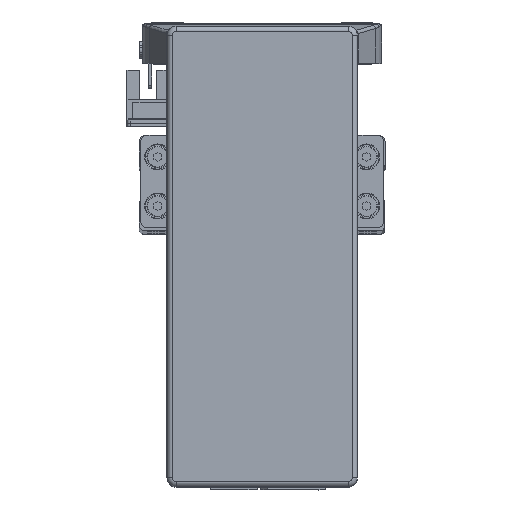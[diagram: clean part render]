
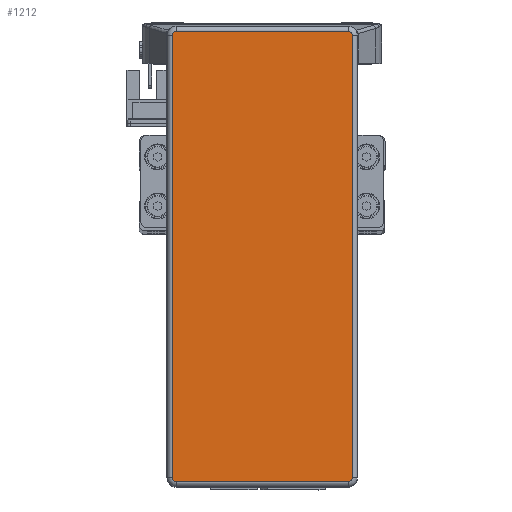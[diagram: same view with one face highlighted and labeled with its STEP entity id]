
A CAD part, top view. The second image highlights one B-rep face of the part: STEP entity #1212.
In plain terms, the highlighted planar face has unit normal (0, 0, 1) as drawn and (0, 0, -1) by its records, which use the part's own axes.
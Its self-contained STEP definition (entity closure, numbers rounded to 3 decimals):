
#1212 = ADVANCED_FACE ( 'NONE', ( #18294 ), #30005, .F. ) ;
#3678 = CARTESIAN_POINT ( 'NONE',  ( 71.995, -29.295, -32.2 ) ) ;
#3701 = CARTESIAN_POINT ( 'NONE',  ( 71.995, 29.295, -32.2 ) ) ;
#3752 = CARTESIAN_POINT ( 'NONE',  ( -73.295, 27.995, -32.2 ) ) ;
#3753 = CARTESIAN_POINT ( 'NONE',  ( -71.995, -29.295, -32.2 ) ) ;
#3761 = CARTESIAN_POINT ( 'NONE',  ( 73.295, 27.995, -32.2 ) ) ;
#3774 = CARTESIAN_POINT ( 'NONE',  ( -73.295, -27.995, -32.2 ) ) ;
#3777 = CARTESIAN_POINT ( 'NONE',  ( -71.995, 29.295, -32.2 ) ) ;
#3796 = CARTESIAN_POINT ( 'NONE',  ( 73.295, -27.995, -32.2 ) ) ;
#5838 = CIRCLE ( 'NONE', #23985, 1.3 ) ;
#5908 = CIRCLE ( 'NONE', #24061, 1.3 ) ;
#5924 = LINE ( 'NONE', #11670, #5964 ) ;
#5964 = VECTOR ( 'NONE', #11664, 1000. ) ;
#5973 = CIRCLE ( 'NONE', #24019, 1.3 ) ;
#6096 = LINE ( 'NONE', #11689, #6097 ) ;
#6097 = VECTOR ( 'NONE', #11704, 1000. ) ;
#6509 = VECTOR ( 'NONE', #11571, 1000. ) ;
#6518 = CIRCLE ( 'NONE', #24040, 1.3 ) ;
#6537 = LINE ( 'NONE', #11563, #6509 ) ;
#11563 = CARTESIAN_POINT ( 'NONE',  ( 73.295, -27.995, -32.2 ) ) ;
#11570 = CARTESIAN_POINT ( 'NONE',  ( 71.995, 27.995, -32.2 ) ) ;
#11571 = DIRECTION ( 'NONE',  ( 0., -1., 0. ) ) ;
#11579 = DIRECTION ( 'NONE',  ( 0., 0., -1. ) ) ;
#11588 = DIRECTION ( 'NONE',  ( 1., 0., 0. ) ) ;
#11664 = DIRECTION ( 'NONE',  ( 0., 1., 0. ) ) ;
#11670 = CARTESIAN_POINT ( 'NONE',  ( -73.295, -27.995, -32.2 ) ) ;
#11689 = CARTESIAN_POINT ( 'NONE',  ( 71.995, -29.295, -32.2 ) ) ;
#11693 = DIRECTION ( 'NONE',  ( 0., 0., -1. ) ) ;
#11694 = DIRECTION ( 'NONE',  ( 1., 0., 0. ) ) ;
#11695 = DIRECTION ( 'NONE',  ( 0., 0., -1. ) ) ;
#11700 = CARTESIAN_POINT ( 'NONE',  ( -71.995, 27.995, -32.2 ) ) ;
#11704 = DIRECTION ( 'NONE',  ( -1., 0., 0. ) ) ;
#11706 = CARTESIAN_POINT ( 'NONE',  ( -71.995, -27.995, -32.2 ) ) ;
#11718 = CARTESIAN_POINT ( 'NONE',  ( 71.995, -27.995, -32.2 ) ) ;
#11719 = DIRECTION ( 'NONE',  ( 1., 0., 0. ) ) ;
#11726 = DIRECTION ( 'NONE',  ( 0., 0., -1. ) ) ;
#11727 = DIRECTION ( 'NONE',  ( 1., 0., 0. ) ) ;
#11733 = DIRECTION ( 'NONE',  ( 1., 0., 0. ) ) ;
#11768 = CARTESIAN_POINT ( 'NONE',  ( 71.995, 29.295, -32.2 ) ) ;
#12267 = LINE ( 'NONE', #11768, #12269 ) ;
#12269 = VECTOR ( 'NONE', #11733, 1000. ) ;
#18294 = FACE_OUTER_BOUND ( 'NONE', #28795, .T. ) ;
#23985 = AXIS2_PLACEMENT_3D ( 'NONE', #11718, #11726, #11727 ) ;
#24019 = AXIS2_PLACEMENT_3D ( 'NONE', #11706, #11695, #11719 ) ;
#24040 = AXIS2_PLACEMENT_3D ( 'NONE', #11570, #11579, #11588 ) ;
#24061 = AXIS2_PLACEMENT_3D ( 'NONE', #11700, #11693, #11694 ) ;
#25527 = VERTEX_POINT ( 'NONE', #3678 ) ;
#25538 = VERTEX_POINT ( 'NONE', #3701 ) ;
#25539 = VERTEX_POINT ( 'NONE', #3752 ) ;
#25540 = VERTEX_POINT ( 'NONE', #3777 ) ;
#25541 = VERTEX_POINT ( 'NONE', #3753 ) ;
#25547 = VERTEX_POINT ( 'NONE', #3774 ) ;
#25554 = VERTEX_POINT ( 'NONE', #3796 ) ;
#25555 = VERTEX_POINT ( 'NONE', #3761 ) ;
#25947 = ORIENTED_EDGE ( 'NONE', *, *, #31696, .T. ) ;
#25950 = ORIENTED_EDGE ( 'NONE', *, *, #31697, .T. ) ;
#25956 = ORIENTED_EDGE ( 'NONE', *, *, #31675, .T. ) ;
#25958 = ORIENTED_EDGE ( 'NONE', *, *, #31643, .T. ) ;
#25981 = ORIENTED_EDGE ( 'NONE', *, *, #31783, .T. ) ;
#26019 = ORIENTED_EDGE ( 'NONE', *, *, #31693, .T. ) ;
#26475 = ORIENTED_EDGE ( 'NONE', *, *, #31702, .T. ) ;
#26480 = ORIENTED_EDGE ( 'NONE', *, *, #31655, .T. ) ;
#28795 = EDGE_LOOP ( 'NONE', ( #26480, #26019, #25950, #25947, #25956, #26475, #25981, #25958 ) ) ;
#30005 = PLANE ( 'NONE',  #32705 ) ;
#30047 = DIRECTION ( 'NONE',  ( 1., 0., 0. ) ) ;
#30102 = CARTESIAN_POINT ( 'NONE',  ( 71.995, -27.995, -32.2 ) ) ;
#30105 = DIRECTION ( 'NONE',  ( 0., 0., 1. ) ) ;
#31643 = EDGE_CURVE ( 'NONE', #25538, #25555, #6518, .T. ) ;
#31655 = EDGE_CURVE ( 'NONE', #25555, #25554, #6537, .T. ) ;
#31675 = EDGE_CURVE ( 'NONE', #25547, #25539, #5924, .T. ) ;
#31693 = EDGE_CURVE ( 'NONE', #25554, #25527, #5838, .T. ) ;
#31696 = EDGE_CURVE ( 'NONE', #25541, #25547, #5973, .T. ) ;
#31697 = EDGE_CURVE ( 'NONE', #25527, #25541, #6096, .T. ) ;
#31702 = EDGE_CURVE ( 'NONE', #25539, #25540, #5908, .T. ) ;
#31783 = EDGE_CURVE ( 'NONE', #25540, #25538, #12267, .T. ) ;
#32705 = AXIS2_PLACEMENT_3D ( 'NONE', #30102, #30105, #30047 ) ;
